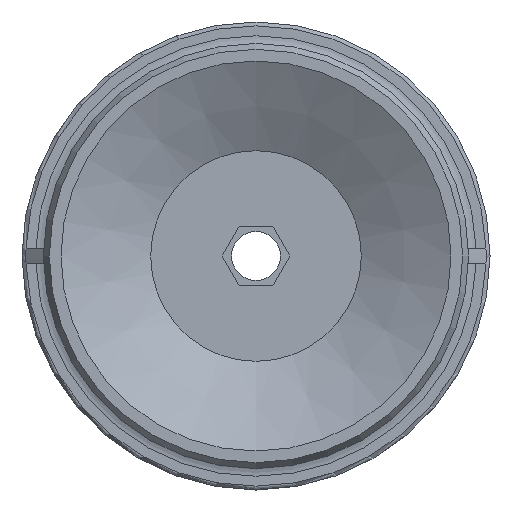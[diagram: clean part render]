
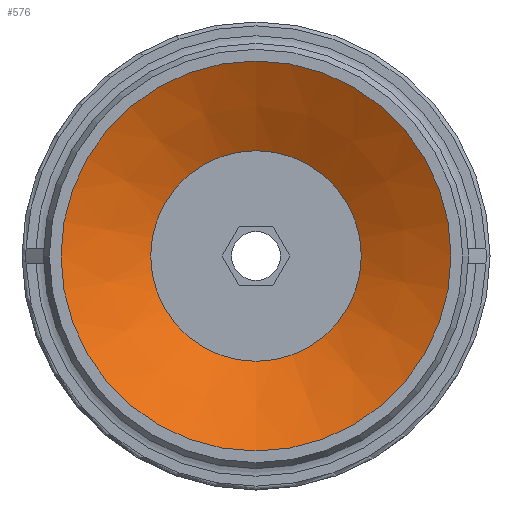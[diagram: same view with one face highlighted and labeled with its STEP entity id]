
A CAD part, front view. The second image highlights one B-rep face of the part: STEP entity #576.
In plain terms, the highlighted conical face has half-angle 61.631 degrees and reference radius 5.4 mm.
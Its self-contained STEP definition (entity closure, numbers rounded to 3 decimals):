
#576=ADVANCED_FACE('',(#872,#873),#874,.F.);
#872=FACE_BOUND('',#1175,.T.);
#873=FACE_OUTER_BOUND('',#1176,.T.);
#874=CONICAL_SURFACE('',#1177,5.4,1.076);
#1175=EDGE_LOOP('',(#2023));
#1176=EDGE_LOOP('',(#2024));
#1177=AXIS2_PLACEMENT_3D('',#2025,#2026,#2027);
#2023=ORIENTED_EDGE('',*,*,#2292,.F.);
#2024=ORIENTED_EDGE('',*,*,#2294,.T.);
#2025=CARTESIAN_POINT('',(0.0,2.484,0.0));
#2026=DIRECTION('',(-0.0,-1.0,0.));
#2027=DIRECTION('',(0.0,0.,-1.0));
#2292=EDGE_CURVE('',#2699,#2699,#2700,.T.);
#2294=EDGE_CURVE('',#2703,#2703,#2704,.T.);
#2699=VERTEX_POINT('',#3547);
#2700=CIRCLE('',#3548,5.4);
#2703=VERTEX_POINT('',#3551);
#2704=CIRCLE('',#3552,10.0);
#3547=CARTESIAN_POINT('',(0.0,2.484,-5.4));
#3548=AXIS2_PLACEMENT_3D('',#3925,#3926,#3927);
#3551=CARTESIAN_POINT('',(0.0,0.,-10.0));
#3552=AXIS2_PLACEMENT_3D('',#3931,#3932,#3933);
#3925=CARTESIAN_POINT('',(0.0,2.484,0.0));
#3926=DIRECTION('',(0.0,-1.0,0.));
#3927=DIRECTION('',(0.0,0.,-1.0));
#3931=CARTESIAN_POINT('',(0.0,0.0,0.0));
#3932=DIRECTION('',(0.0,-1.0,0.));
#3933=DIRECTION('',(0.0,0.,-1.0));
